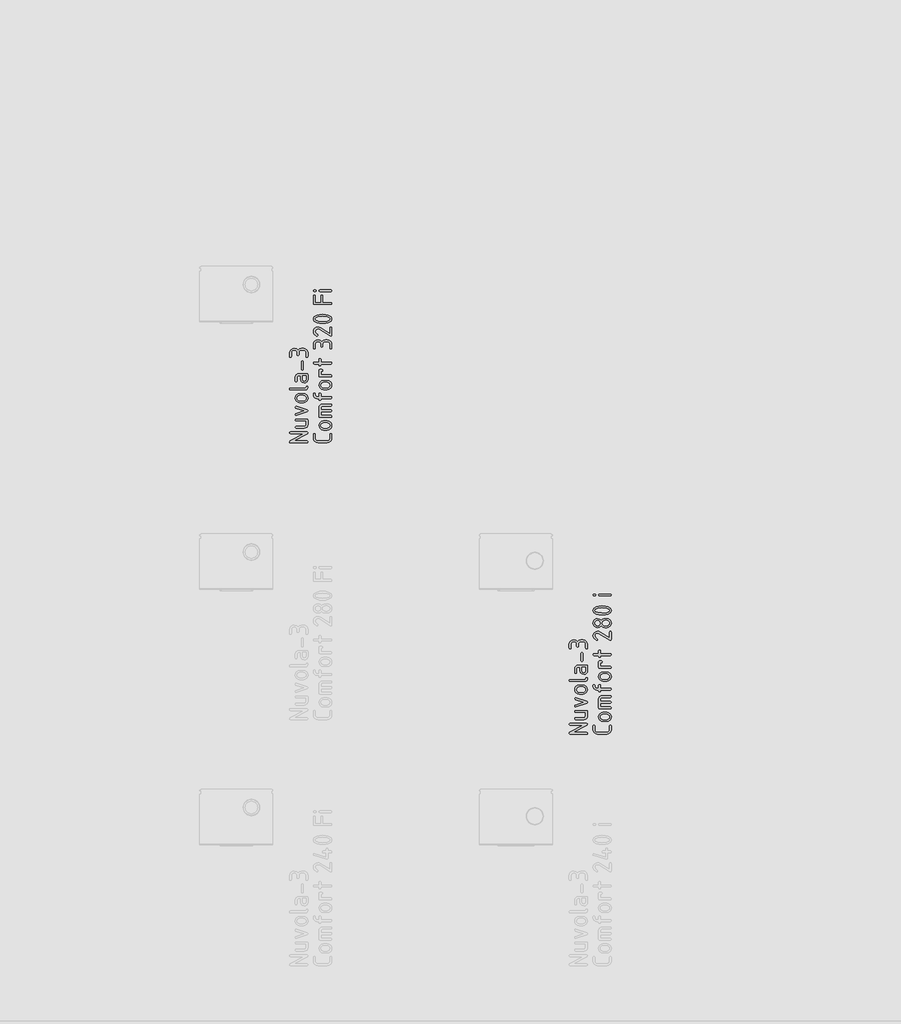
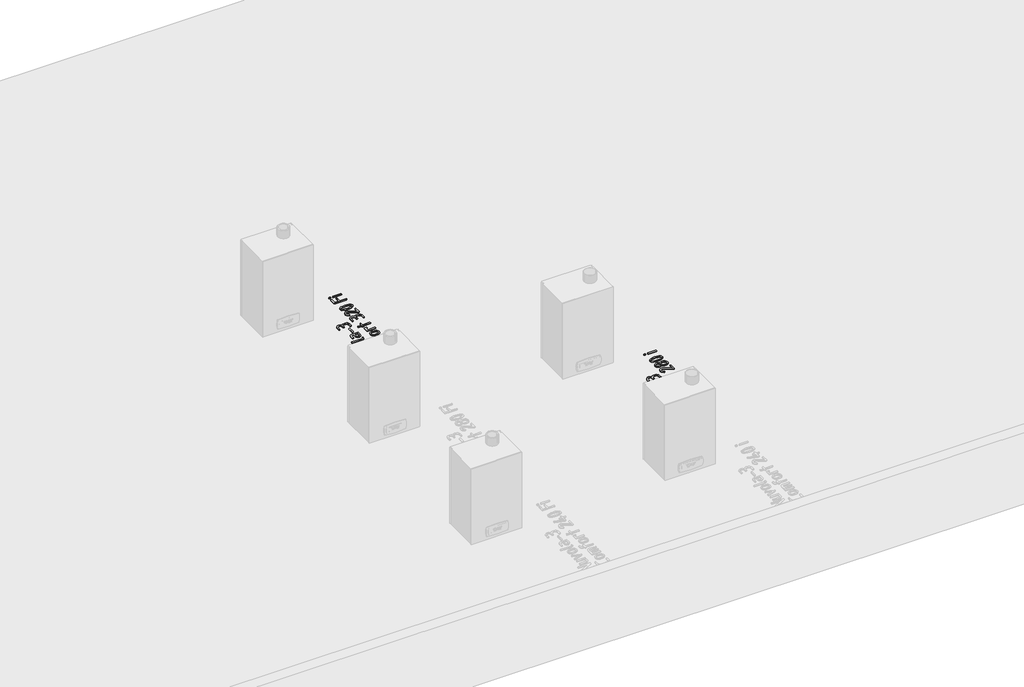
# One storey, part 11 of 37: 2 proxies.
"""IFC4 building model written with IfcOpenShell, lengths in millimetres."""

from ifc_helpers import new_model, si_unit, origin, origin_with_axes, place, context, project, spatial, polyline, outline, extrude, element, save

model = new_model("IFC4")

# Units and contexts
model_context = context("Model", 3, world=origin())
ifc_project = project(units=[si_unit("LENGTHUNIT", "METRE", prefix="MILLI")], contexts=[model_context])

# Site, building, storey
site = spatial("IfcSite", under=ifc_project)
building = spatial("IfcBuilding", under=site)
storey = spatial("IfcBuildingStorey", under=building, Name="01_Стартовый вид_Площадка", Elevation=0.0)

# Proxies
placement = place(None, origin())
element("IfcBuildingElementProxy", 1, Name="150 мм", ObjectType="150 мм", at=placement, inside=storey, context=model_context, shape_type="SweptSolid", body=[
    extrude(outline(polyline([(10793.5127035, -15161.7152815), (10686.8818775, -15161.7152815), (10681.2187379, -15159.7976046), (10679.3310247, -15154.0445739), (10681.2187379, -15148.2915432), (10686.8818775, -15146.3738663), (10822.6374214, -15146.3738663), (10828.300561, -15148.411398), (10830.1882742, -15154.5239932), (10826.4328236, -15161.7152815), (10715.8867406, -15220.5240398), (10822.6374214, -15220.5240398), (10828.300561, -15222.4417167), (10830.1882742, -15228.1947474), (10828.300561, -15233.9477781), (10822.6374214, -15235.865455), (10686.8818775, -15235.865455), (10681.2187379, -15233.8678749), (10679.3310247, -15227.8751346), (10683.8056042, -15220.5240398), (10793.5127035, -15161.7152815)])), origin_with_axes(), (0.0, 0.0, 1.0), 10.0),
    extrude(outline(polyline([(10732.8262199, -15041.5408625), (10822.7173246, -15041.5408625), (10828.3205368, -15043.398612), (10830.1882742, -15048.9718605), (10830.1882742, -15086.0469472), (10828.0208998, -15097.5430207), (10821.5187765, -15107.1014415), (10811.8604767, -15113.5436373), (10800.2245726, -15115.6910359), (10732.8262199, -15115.6910359), (10727.2230077, -15113.773359), (10725.3552703, -15108.0203283), (10727.2230077, -15102.2672976), (10732.8262199, -15100.3496207), (10799.9449114, -15100.3496207), (10810.4322069, -15096.0747993), (10814.846859, -15085.8471892), (10814.846859, -15056.8822777), (10732.8262199, -15056.8822777), (10727.2230077, -15054.9646008), (10725.3552703, -15049.2115701), (10727.2230077, -15043.4585394), (10732.8262199, -15041.5408625)])), origin_with_axes(), (0.0, 0.0, 1.0), 10.0),
    extrude(outline(polyline([(10798.8662181, -14973.7030422), (10730.4690754, -14950.9705806), (10725.3552703, -14943.8192438), (10727.2030319, -14938.0961768), (10732.7463167, -14936.1884878), (10735.223316, -14936.667907), (10823.9558242, -14966.192141), (10828.6301617, -14969.0886321), (10830.1882742, -14973.7030422), (10828.6601254, -14978.2974764), (10824.0756791, -14981.2139433), (10735.223316, -15010.7381773), (10732.7463167, -15011.2175965), (10727.5126568, -15009.0002826), (10725.3552703, -15003.7066953), (10726.6337216, -14999.1821764), (10730.4690754, -14996.5553585), (10798.8662181, -14973.7030422)])), origin_with_axes(), (0.0, 0.0, 1.0), 10.0),
    extrude(outline(polyline([(10792.753623, -14906.0250282), (10762.7899215, -14906.0250282), (10748.3973568, -14903.3133132), (10736.3020093, -14895.1781683), (10728.0919551, -14883.1976816), (10725.3552703, -14868.9499415), (10728.0619914, -14854.5523829), (10736.1821545, -14842.6018599), (10748.2475383, -14834.5566061), (10762.7899215, -14831.8748548), (10792.753623, -14831.8748548), (10807.1461877, -14834.5865698), (10819.2415352, -14842.7217147), (10827.4515894, -14854.7022014), (10830.1882742, -14868.9499415), (10827.4515894, -14883.1976816), (10819.2415352, -14895.1781683), (10807.1461877, -14903.3133132), (10792.753623, -14906.0250282)]), holes=[polyline([(10792.3141554, -14847.21627), (10762.3105022, -14847.21627), (10753.6809562, -14848.8093401), (10746.4097646, -14853.5885505), (10741.4657539, -14860.6150385), (10739.8177503, -14868.9499415), (10741.4657539, -14877.2848445), (10746.4097646, -14884.3113325), (10753.6809562, -14889.0905429), (10762.3105022, -14890.683613), (10792.3141554, -14890.683613), (10801.0236047, -14889.1055248), (10808.2947962, -14884.3712599), (10813.2088433, -14877.3597537), (10814.846859, -14868.9499415), (10813.1988554, -14860.6150385), (10808.2548446, -14853.5885505), (10800.9736651, -14848.8093401), (10792.3141554, -14847.21627)])]), origin_with_axes(), (0.0, 0.0, 1.0), 10.0),
    extrude(outline(polyline([(10686.8818775, -14801.1920244), (10681.2187379, -14799.2743475), (10679.3310247, -14793.5213168), (10681.2187379, -14787.7682861), (10686.8818775, -14785.8506092), (10807.5756674, -14785.8506092), (10812.3498838, -14783.9778778), (10815.0865686, -14778.3596838), (10817.8332412, -14772.7414898), (10822.6374214, -14770.8687584), (10828.300561, -14772.7364958), (10830.1882742, -14778.339708), (10828.6900891, -14787.5635341), (10824.1955339, -14794.8596955), (10817.0441971, -14799.6089422), (10807.5756674, -14801.1920244), (10686.8818775, -14801.1920244)])), origin_with_axes(), (0.0, 0.0, 1.0), 10.0),
    extrude(outline(polyline([(10830.1882742, -14713.578161), (10827.9659663, -14725.1940893), (10821.2990427, -14734.8723649), (10811.4060272, -14741.4044519), (10799.5054438, -14743.5818142), (10784.0441738, -14739.586654), (10772.6280035, -14728.8296851), (10768.8226134, -14713.578161), (10768.8226134, -14683.5745079), (10754.7596494, -14683.5745079), (10744.7517731, -14687.8892809), (10740.6966855, -14698.5563587), (10740.6966855, -14728.5600118), (10738.7790086, -14734.1931877), (10733.0259779, -14736.070913), (10727.2729472, -14734.1931877), (10725.3552703, -14728.5600118), (10725.3552703, -14698.5563587), (10727.5226447, -14686.875509), (10734.024768, -14677.0823725), (10743.6830678, -14670.4454126), (10755.3189719, -14668.2330927), (10822.7173246, -14668.2330927), (10828.3205368, -14670.1507696), (10830.1882742, -14675.9038003), (10830.1882742, -14713.578161)]), holes=[polyline([(10784.1640286, -14683.5745079), (10784.1640286, -14713.578161), (10788.638608, -14724.1853114), (10799.5054438, -14728.5600118), (10810.3123521, -14724.125384), (10814.846859, -14713.578161), (10814.846859, -14683.5745079), (10784.1640286, -14683.5745079)])]), origin_with_axes(), (0.0, 0.0, 1.0), 10.0),
    extrude(outline(polyline([(10791.8347362, -14570.3916192), (10791.8347362, -14630.3989255), (10789.9170593, -14636.0321014), (10784.1640286, -14637.9098267), (10778.4109979, -14636.0321014), (10776.493321, -14630.3989255), (10776.493321, -14570.3916192), (10778.4109979, -14564.7584433), (10784.1640286, -14562.880718), (10789.9170593, -14564.7584433), (10791.8347362, -14570.3916192)])), origin_with_axes(), (0.0, 0.0, 1.0), 10.0),
    extrude(outline(polyline([(10756.0381007, -14496.4012521), (10756.0381007, -14511.3831029), (10754.1204238, -14517.0162788), (10748.3673931, -14518.8940041), (10742.6143624, -14517.0162788), (10740.6966855, -14511.3831029), (10740.6966855, -14496.4012521), (10739.0237122, -14487.6967968), (10734.0047922, -14480.4405871), (10726.5787881, -14475.5415219), (10717.6845627, -14473.9085002), (10708.8402768, -14475.5565038), (10701.4042849, -14480.5005145), (10696.3554012, -14487.7717061), (10694.6724399, -14496.4012521), (10694.6724399, -14526.4049053), (10692.754763, -14532.0380812), (10687.0017323, -14533.9158065), (10681.2487016, -14532.0380812), (10679.3310247, -14526.4049053), (10679.3310247, -14496.4012521), (10682.1476127, -14481.9337782), (10690.5973765, -14469.6936062), (10703.002349, -14461.3487153), (10717.6845627, -14458.567085), (10734.8837274, -14462.3225356), (10748.3673931, -14473.5888874), (10761.4415549, -14462.3225356), (10778.1313367, -14458.567085), (10792.9933326, -14458.567085), (10807.3059941, -14461.3636971), (10819.3214384, -14469.7535336), (10827.4715652, -14482.0086875), (10830.1882742, -14496.4012521), (10830.1882742, -14526.4049053), (10828.2705973, -14532.0380812), (10822.5175666, -14533.9158065), (10816.7645359, -14532.0380812), (10814.846859, -14526.4049053), (10814.846859, -14496.4012521), (10813.2438009, -14487.6967968), (10808.4346268, -14480.4405871), (10801.3182477, -14475.5415219), (10792.7935746, -14473.9085002), (10778.0913851, -14473.9085002), (10769.6166515, -14475.5565038), (10762.4902844, -14480.5005145), (10757.6511466, -14487.7717061), (10756.0381007, -14496.4012521)])), origin_with_axes(), (0.0, 0.0, 1.0), 10.0),
    extrude(outline(polyline([(10875.3552703, -15168.0276347), (10877.2729472, -15162.3944588), (10883.0259779, -15160.5167335), (10888.7790086, -15162.3944588), (10890.6966855, -15168.0276347), (10890.6966855, -15198.0312878), (10892.3446891, -15206.7357431), (10897.2886999, -15213.9919528), (10904.5698793, -15218.8910181), (10913.2293891, -15220.5240398), (10988.338401, -15220.5240398), (10996.9979107, -15218.8760362), (11004.2790902, -15213.9320254), (11009.223101, -15206.6608339), (11010.8711046, -15198.0312878), (11010.8711046, -15168.0276347), (11012.7887815, -15162.3944588), (11018.5418122, -15160.5167335), (11024.2948429, -15162.3944588), (11026.2125198, -15168.0276347), (11026.2125198, -15198.0312878), (11023.4558592, -15212.4987617), (11015.1858776, -15224.7389338), (11003.000639, -15233.0838247), (10988.4982074, -15235.865455), (10913.0695827, -15235.865455), (10898.5671511, -15233.0838247), (10886.3819125, -15224.7389338), (10878.1119309, -15212.4987617), (10875.3552703, -15198.0312878), (10875.3552703, -15168.0276347)])), origin_with_axes(), (0.0, 0.0, 1.0), 10.0),
    extrude(outline(polyline([(10988.7778686, -15131.0324511), (10958.8141671, -15131.0324511), (10944.4216024, -15128.3207361), (10932.3262549, -15120.1855912), (10924.1162007, -15108.2051045), (10921.3795159, -15093.9573644), (10924.086237, -15079.5598058), (10932.2064001, -15067.6092828), (10944.2717839, -15059.564029), (10958.8141671, -15056.8822777), (10988.7778686, -15056.8822777), (11003.1704333, -15059.5939927), (11015.2657808, -15067.7291376), (11023.475835, -15079.7096243), (11026.2125198, -15093.9573644), (11023.475835, -15108.2051045), (11015.2657808, -15120.1855912), (11003.1704333, -15128.3207361), (10988.7778686, -15131.0324511)]), holes=[polyline([(10988.338401, -15072.2236929), (10958.3347478, -15072.2236929), (10949.7052018, -15073.816763), (10942.4340102, -15078.5959734), (10937.4899994, -15085.6224614), (10935.8419959, -15093.9573644), (10937.4899994, -15102.2922674), (10942.4340102, -15109.3187554), (10949.7052018, -15114.0979658), (10958.3347478, -15115.6910359), (10988.338401, -15115.6910359), (10997.0478502, -15114.1129477), (11004.3190418, -15109.3786828), (11009.2330889, -15102.3671766), (11010.8711046, -15093.9573644), (11009.223101, -15085.6224614), (11004.2790902, -15078.5959734), (10996.9979107, -15073.816763), (10988.338401, -15072.2236929)])]), origin_with_axes(), (0.0, 0.0, 1.0), 10.0),
    extrude(outline(polyline([(10921.3795159, -15018.5287397), (10921.3795159, -14949.4923713), (10923.5468903, -14937.5917878), (10930.0490136, -14927.6987724), (10939.7073134, -14921.0318488), (10951.3432175, -14918.8095409), (11018.7415702, -14918.8095409), (11024.3447824, -14920.7272178), (11026.2125198, -14926.4802485), (11024.3447824, -14932.2332792), (11018.7415702, -14934.1509561), (10951.6228787, -14934.1509561), (10941.0157283, -14938.5656081), (10936.7209311, -14949.4923713), (10936.7209311, -14964.8337865), (11018.7415702, -14964.8337865), (11024.3447824, -14966.7514634), (11026.2125198, -14972.5044941), (11024.3447824, -14978.2575248), (11018.7415702, -14980.1752017), (10936.7209311, -14980.1752017), (10936.7209311, -15010.8580321), (11018.7415702, -15010.8580321), (11024.3447824, -15012.775709), (11026.2125198, -15018.5287397), (11024.3447824, -15024.2817704), (11018.7415702, -15026.1994473), (10928.8504655, -15026.1994473), (10923.2472533, -15024.2817704), (10921.3795159, -15018.5287397)])), origin_with_axes(), (0.0, 0.0, 1.0), 10.0),
    extrude(outline(polyline([(10921.3795159, -14880.2961965), (10921.3795159, -14872.7852953), (10906.0381007, -14872.7852953), (10894.1375172, -14870.5529995), (10884.2445018, -14863.8561122), (10877.5775782, -14854.0330121), (10875.3552703, -14842.4220777), (10875.3552703, -14834.9111765), (10877.2729472, -14829.3079644), (10883.0259779, -14827.440227), (10888.7790086, -14829.3079644), (10890.6966855, -14834.9111765), (10890.6966855, -14842.4220777), (10895.1712649, -14853.0691797), (10906.0381007, -14857.4438801), (10921.3795159, -14857.4438801), (10921.3795159, -14834.9111765), (10923.2971928, -14829.3079644), (10929.0502235, -14827.440227), (10934.8032542, -14829.3079644), (10936.7209311, -14834.9111765), (10936.7209311, -14857.4438801), (11018.7415702, -14857.4438801), (11024.3447824, -14859.361557), (11026.2125198, -14865.1145877), (11024.3447824, -14870.8676184), (11018.7415702, -14872.7852953), (10936.7209311, -14872.7852953), (10936.7209311, -14880.2961965), (10934.8032542, -14885.9293724), (10929.0502235, -14887.8070977), (10923.2971928, -14885.9293724), (10921.3795159, -14880.2961965)])), origin_with_axes(), (0.0, 0.0, 1.0), 10.0),
    extrude(outline(polyline([(10988.7778686, -14798.6351219), (10958.8141671, -14798.6351219), (10944.4216024, -14795.9234069), (10932.3262549, -14787.7882619), (10924.1162007, -14775.8077752), (10921.3795159, -14761.5600351), (10924.086237, -14747.1624765), (10932.2064001, -14735.2119536), (10944.2717839, -14727.1666997), (10958.8141671, -14724.4849484), (10988.7778686, -14724.4849484), (11003.1704333, -14727.1966634), (11015.2657808, -14735.3318084), (11023.475835, -14747.312295), (11026.2125198, -14761.5600351), (11023.475835, -14775.8077752), (11015.2657808, -14787.7882619), (11003.1704333, -14795.9234069), (10988.7778686, -14798.6351219)]), holes=[polyline([(10988.338401, -14739.8263636), (10958.3347478, -14739.8263636), (10949.7052018, -14741.4194337), (10942.4340102, -14746.1986441), (10937.4899994, -14753.2251321), (10935.8419959, -14761.5600351), (10937.4899994, -14769.8949381), (10942.4340102, -14776.9214261), (10949.7052018, -14781.7006365), (10958.3347478, -14783.2937067), (10988.338401, -14783.2937067), (10997.0478502, -14781.7156184), (11004.3190418, -14776.9813535), (11009.2330889, -14769.9698474), (11010.8711046, -14761.5600351), (11009.223101, -14753.2251321), (11004.2790902, -14746.1986441), (10996.9979107, -14741.4194337), (10988.338401, -14739.8263636)])]), origin_with_axes(), (0.0, 0.0, 1.0), 10.0),
    extrude(outline(polyline([(10928.8504655, -14693.802118), (10923.2472533, -14691.8844411), (10921.3795159, -14686.1314104), (10921.3795159, -14640.9461485), (10923.2971928, -14635.3429363), (10929.0502235, -14633.4751989), (10944.2318323, -14633.4751989), (10949.8650082, -14635.3429363), (10951.7427335, -14640.9461485), (10949.8650082, -14646.5793244), (10944.2318323, -14648.4570496), (10936.7209311, -14648.4570496), (10936.7209311, -14678.4607028), (11018.7415702, -14678.4607028), (11024.3447824, -14680.3783797), (11026.2125198, -14686.1314104), (11024.3447824, -14691.8844411), (11018.7415702, -14693.802118), (10928.8504655, -14693.802118)])), origin_with_axes(), (0.0, 0.0, 1.0), 10.0),
    extrude(outline(polyline([(10936.7209311, -14588.9691142), (10936.7209311, -14596.4800153), (10934.8032542, -14602.1131912), (10929.0502235, -14603.9909165), (10923.2971928, -14602.1131912), (10921.3795159, -14596.4800153), (10921.3795159, -14588.9691142), (10883.0259779, -14588.9691142), (10877.2729472, -14587.0514373), (10875.3552703, -14581.2984066), (10877.2729472, -14575.5453759), (10883.0259779, -14573.627699), (10921.3795159, -14573.627699), (10921.3795159, -14551.0949954), (10923.2971928, -14545.4917832), (10929.0502235, -14543.6240458), (10934.8032542, -14545.4917832), (10936.7209311, -14551.0949954), (10936.7209311, -14573.627699), (11018.7415702, -14573.627699), (11024.3447824, -14575.5453759), (11026.2125198, -14581.2984066), (11024.3447824, -14587.0514373), (11018.7415702, -14588.9691142), (10936.7209311, -14588.9691142)])), origin_with_axes(), (0.0, 0.0, 1.0), 10.0),
    extrude(outline(polyline([(10875.3552703, -14426.5259001), (10878.1069369, -14412.0983778), (10886.3619367, -14399.9780605), (10898.5222056, -14391.7530245), (10912.9896795, -14389.0113458), (10923.7865999, -14390.7192768), (10934.6833994, -14395.8430697), (11010.8711046, -14443.105815), (11010.8711046, -14396.522247), (11012.7887815, -14390.8890711), (11018.5418122, -14389.0113458), (11024.2948429, -14390.8890711), (11026.2125198, -14396.522247), (11026.2125198, -14456.5295533), (11024.3347945, -14462.1627292), (11018.7016186, -14464.0404545), (11014.3468939, -14462.7620032), (10925.7342405, -14407.7885987), (10913.2693407, -14404.0331481), (10904.604837, -14405.6811517), (10897.3086757, -14410.6251625), (10892.3496831, -14417.8963541), (10890.6966855, -14426.5259001), (10895.4109746, -14438.7610782), (10909.5538417, -14450.0573937), (10913.1894375, -14456.5295533), (10911.3117122, -14462.1627292), (10905.6785363, -14464.0404545), (10902.6022629, -14463.3213256), (10882.1670185, -14447.1509147), (10877.0582074, -14437.3952329), (10875.3552703, -14426.5259001)])), origin_with_axes(), (0.0, 0.0, 1.0), 10.0),
    extrude(outline(polyline([(11026.2125198, -14321.7727995), (11023.4558592, -14336.0205396), (11015.1858776, -14348.0010262), (11003.000639, -14356.1361712), (10988.4982074, -14358.8478862), (10973.3965018, -14358.8478862), (10956.4869862, -14355.0125324), (10943.2330422, -14343.506471), (10929.9790983, -14355.0125324), (10913.0695827, -14358.8478862), (10898.5671511, -14356.1361712), (10886.3819125, -14348.0010262), (10878.1119309, -14336.0205396), (10875.3552703, -14321.7727995), (10878.1119309, -14307.5250594), (10886.3819125, -14295.5445727), (10898.5671511, -14287.4094277), (10913.0695827, -14284.6977127), (10929.9790983, -14288.5330665), (10943.2330422, -14300.0391279), (10952.4119228, -14291.7891221), (10963.4885045, -14287.2546153), (10988.4982074, -14284.6977127), (11003.000639, -14287.4094277), (11015.1858776, -14295.5445727), (11023.4558592, -14307.5250594), (11026.2125198, -14321.7727995)]), holes=[polyline([(11010.8711046, -14321.7727995), (11009.2330889, -14313.3629872), (11004.3190418, -14306.3514811), (10997.0478502, -14301.6172162), (10988.338401, -14300.0391279), (10973.3565502, -14300.0391279), (10964.7270042, -14301.6321981), (10957.4558126, -14306.4114085), (10952.5118018, -14313.4378965), (10950.8637982, -14321.7727995), (10952.49682, -14330.1826117), (10957.3958852, -14337.1941179), (10964.6520949, -14341.9283827), (10973.3565502, -14343.506471), (10988.338401, -14343.506471), (10997.0478502, -14341.9283827), (11004.3190418, -14337.1941179), (11009.2330889, -14330.1826117), (11010.8711046, -14321.7727995)]), polyline([(10936.2015603, -14321.7727995), (10934.5685385, -14313.3629872), (10929.6694733, -14306.3514811), (10922.4132636, -14301.6172162), (10913.7088083, -14300.0391279), (10905.0792623, -14301.6321981), (10897.8080707, -14306.4114085), (10892.8640599, -14313.4378965), (10891.2160563, -14321.7727995), (10892.8490781, -14330.1826117), (10897.7481433, -14337.1941179), (10905.004353, -14341.9283827), (10913.7088083, -14343.506471), (10922.4132636, -14341.9283827), (10929.6694733, -14337.1941179), (10934.5685385, -14330.1826117), (10936.2015603, -14321.7727995)])]), origin_with_axes(), (0.0, 0.0, 1.0), 10.0),
    extrude(outline(polyline([(10950.783895, -14179.8647089), (10975.9234406, -14181.4927367), (10997.4074147, -14186.37682), (11019.0112435, -14198.7917804), (11024.4122007, -14207.1491561), (11026.2125198, -14216.9397956), (11024.4196916, -14226.7304351), (11019.0412072, -14235.0878109), (10997.5272695, -14247.5027712), (10976.0133318, -14252.3868546), (10950.783895, -14254.0148823), (10925.5544583, -14252.3868546), (10904.0405206, -14247.5027712), (10882.5265829, -14235.0878109), (10877.1480985, -14226.7304351), (10875.3552703, -14216.9397956), (10877.1555894, -14207.1491561), (10882.5565466, -14198.7917804), (10904.1603754, -14186.37682), (10925.6443494, -14181.4927367), (10950.783895, -14179.8647089)]), holes=[polyline([(10950.783895, -14195.2061241), (10915.6264852, -14199.0414779), (10896.9291354, -14206.4325243), (10890.6966855, -14216.9397956), (10896.9590991, -14227.3571759), (10915.74634, -14234.7182585), (10950.783895, -14238.6734671), (10985.9413049, -14234.8381133), (11004.6386546, -14227.447067), (11010.8711046, -14216.9397956), (11004.6386546, -14206.4325243), (10985.9413049, -14199.0414779), (10950.783895, -14195.2061241)])]), origin_with_axes(), (0.0, 0.0, 1.0), 10.0),
    extrude(outline(polyline([(10890.3770727, -14098.0438278), (10882.8661715, -14098.0438278), (10877.2329956, -14096.1261509), (10875.3552703, -14090.3731202), (10877.2329956, -14084.6200895), (10882.8661715, -14082.7024126), (10890.3770727, -14082.7024126), (10896.0102486, -14084.6200895), (10897.8879739, -14090.3731202), (10896.0102486, -14096.1261509), (10890.3770727, -14098.0438278)])), origin_with_axes(), (0.0, 0.0, 1.0), 10.0),
    extrude(outline(polyline([(10928.6906591, -14098.0438278), (10923.0874469, -14096.1261509), (10921.2197095, -14090.3731202), (10923.0874469, -14084.6200895), (10928.6906591, -14082.7024126), (11018.7016186, -14082.7024126), (11024.3347945, -14084.6200895), (11026.2125198, -14090.3731202), (11024.3347945, -14096.1261509), (11018.7016186, -14098.0438278), (10928.6906591, -14098.0438278)])), origin_with_axes(), (0.0, 0.0, 1.0), 10.0),
])
element("IfcBuildingElementProxy", 2, Name="150 мм", ObjectType="150 мм", at=placement, inside=storey, context=model_context, shape_type="SweptSolid", body=[
    extrude(outline(polyline([(8493.5127035, -12764.7369373), (8386.8818775, -12764.7369373), (8381.2187379, -12762.8192604), (8379.3310247, -12757.0662297), (8381.2187379, -12751.313199), (8386.8818775, -12749.3955221), (8522.6374214, -12749.3955221), (8528.300561, -12751.4330538), (8530.1882742, -12757.5456489), (8526.4328236, -12764.7369373), (8415.8867406, -12823.5456956), (8522.6374214, -12823.5456956), (8528.300561, -12825.4633725), (8530.1882742, -12831.2164032), (8528.300561, -12836.9694339), (8522.6374214, -12838.8871108), (8386.8818775, -12838.8871108), (8381.2187379, -12836.8895307), (8379.3310247, -12830.8967904), (8383.8056042, -12823.5456956), (8493.5127035, -12764.7369373)])), origin_with_axes(), (0.0, 0.0, 1.0), 10.0),
    extrude(outline(polyline([(8432.8262199, -12644.5625183), (8522.7173246, -12644.5625183), (8528.3205368, -12646.4202678), (8530.1882742, -12651.9935163), (8530.1882742, -12689.068603), (8528.0208998, -12700.5646765), (8521.5187765, -12710.1230973), (8511.8604767, -12716.5652931), (8500.2245726, -12718.7126917), (8432.8262199, -12718.7126917), (8427.2230077, -12716.7950148), (8425.3552703, -12711.0419841), (8427.2230077, -12705.2889534), (8432.8262199, -12703.3712765), (8499.9449114, -12703.3712765), (8510.4322069, -12699.0964551), (8514.846859, -12688.868845), (8514.846859, -12659.9039335), (8432.8262199, -12659.9039335), (8427.2230077, -12657.9862566), (8425.3552703, -12652.2332259), (8427.2230077, -12646.4801952), (8432.8262199, -12644.5625183)])), origin_with_axes(), (0.0, 0.0, 1.0), 10.0),
    extrude(outline(polyline([(8498.8662181, -12576.7246979), (8430.4690754, -12553.9922364), (8425.3552703, -12546.8408996), (8427.2030319, -12541.1178326), (8432.7463167, -12539.2101436), (8435.223316, -12539.6895628), (8523.9558242, -12569.2137968), (8528.6301617, -12572.1102879), (8530.1882742, -12576.7246979), (8528.6601254, -12581.3191322), (8524.0756791, -12584.2355991), (8435.223316, -12613.7598331), (8432.7463167, -12614.2392523), (8427.5126568, -12612.0219384), (8425.3552703, -12606.7283511), (8426.6337216, -12602.2038322), (8430.4690754, -12599.5770143), (8498.8662181, -12576.7246979)])), origin_with_axes(), (0.0, 0.0, 1.0), 10.0),
    extrude(outline(polyline([(8492.753623, -12509.046684), (8462.7899215, -12509.046684), (8448.3973568, -12506.334969), (8436.3020093, -12498.1998241), (8428.0919551, -12486.2193374), (8425.3552703, -12471.9715973), (8428.0619914, -12457.5740387), (8436.1821545, -12445.6235157), (8448.2475383, -12437.5782619), (8462.7899215, -12434.8965106), (8492.753623, -12434.8965106), (8507.1461877, -12437.6082256), (8519.2415352, -12445.7433705), (8527.4515894, -12457.7238572), (8530.1882742, -12471.9715973), (8527.4515894, -12486.2193374), (8519.2415352, -12498.1998241), (8507.1461877, -12506.334969), (8492.753623, -12509.046684)]), holes=[polyline([(8492.3141554, -12450.2379258), (8462.3105022, -12450.2379258), (8453.6809562, -12451.8309959), (8446.4097646, -12456.6102063), (8441.4657539, -12463.6366943), (8439.8177503, -12471.9715973), (8441.4657539, -12480.3065003), (8446.4097646, -12487.3329883), (8453.6809562, -12492.1121987), (8462.3105022, -12493.7052688), (8492.3141554, -12493.7052688), (8501.0236047, -12492.1271806), (8508.2947962, -12487.3929157), (8513.2088433, -12480.3814095), (8514.846859, -12471.9715973), (8513.1988554, -12463.6366943), (8508.2548446, -12456.6102063), (8500.9736651, -12451.8309959), (8492.3141554, -12450.2379258)])]), origin_with_axes(), (0.0, 0.0, 1.0), 10.0),
    extrude(outline(polyline([(8386.8818775, -12404.2136802), (8381.2187379, -12402.2960033), (8379.3310247, -12396.5429726), (8381.2187379, -12390.7899419), (8386.8818775, -12388.872265), (8507.5756674, -12388.872265), (8512.3498838, -12386.9995336), (8515.0865686, -12381.3813396), (8517.8332412, -12375.7631456), (8522.6374214, -12373.8904142), (8528.300561, -12375.7581516), (8530.1882742, -12381.3613638), (8528.6900891, -12390.5851899), (8524.1955339, -12397.8813513), (8517.0441971, -12402.6305979), (8507.5756674, -12404.2136802), (8386.8818775, -12404.2136802)])), origin_with_axes(), (0.0, 0.0, 1.0), 10.0),
    extrude(outline(polyline([(8530.1882742, -12316.5998168), (8527.9659663, -12328.2157451), (8521.2990427, -12337.8940207), (8511.4060272, -12344.4261077), (8499.5054438, -12346.60347), (8484.0441738, -12342.6083098), (8472.6280035, -12331.8513409), (8468.8226134, -12316.5998168), (8468.8226134, -12286.5961637), (8454.7596494, -12286.5961637), (8444.7517731, -12290.9109367), (8440.6966855, -12301.5780144), (8440.6966855, -12331.5816676), (8438.7790086, -12337.2148435), (8433.0259779, -12339.0925688), (8427.2729472, -12337.2148435), (8425.3552703, -12331.5816676), (8425.3552703, -12301.5780144), (8427.5226447, -12289.8971648), (8434.024768, -12280.1040283), (8443.6830678, -12273.4670684), (8455.3189719, -12271.2547485), (8522.7173246, -12271.2547485), (8528.3205368, -12273.1724254), (8530.1882742, -12278.9254561), (8530.1882742, -12316.5998168)]), holes=[polyline([(8484.1640286, -12286.5961637), (8484.1640286, -12316.5998168), (8488.638608, -12327.2069672), (8499.5054438, -12331.5816676), (8510.3123521, -12327.1470398), (8514.846859, -12316.5998168), (8514.846859, -12286.5961637), (8484.1640286, -12286.5961637)])]), origin_with_axes(), (0.0, 0.0, 1.0), 10.0),
    extrude(outline(polyline([(8491.8347362, -12173.413275), (8491.8347362, -12233.4205813), (8489.9170593, -12239.0537572), (8484.1640286, -12240.9314825), (8478.4109979, -12239.0537572), (8476.493321, -12233.4205813), (8476.493321, -12173.413275), (8478.4109979, -12167.7800991), (8484.1640286, -12165.9023738), (8489.9170593, -12167.7800991), (8491.8347362, -12173.413275)])), origin_with_axes(), (0.0, 0.0, 1.0), 10.0),
    extrude(outline(polyline([(8456.0381007, -12099.4229079), (8456.0381007, -12114.4047587), (8454.1204238, -12120.0379346), (8448.3673931, -12121.9156599), (8442.6143624, -12120.0379346), (8440.6966855, -12114.4047587), (8440.6966855, -12099.4229079), (8439.0237122, -12090.7184526), (8434.0047922, -12083.4622429), (8426.5787881, -12078.5631777), (8417.6845627, -12076.930156), (8408.8402768, -12078.5781596), (8401.4042849, -12083.5221703), (8396.3554012, -12090.7933619), (8394.6724399, -12099.4229079), (8394.6724399, -12129.4265611), (8392.754763, -12135.059737), (8387.0017323, -12136.9374623), (8381.2487016, -12135.059737), (8379.3310247, -12129.4265611), (8379.3310247, -12099.4229079), (8382.1476127, -12084.955434), (8390.5973765, -12072.7152619), (8403.002349, -12064.3703711), (8417.6845627, -12061.5887408), (8434.8837274, -12065.3441914), (8448.3673931, -12076.6105432), (8461.4415549, -12065.3441914), (8478.1313367, -12061.5887408), (8492.9933326, -12061.5887408), (8507.3059941, -12064.3853529), (8519.3214384, -12072.7751894), (8527.4715652, -12085.0303433), (8530.1882742, -12099.4229079), (8530.1882742, -12129.4265611), (8528.2705973, -12135.059737), (8522.5175666, -12136.9374623), (8516.7645359, -12135.059737), (8514.846859, -12129.4265611), (8514.846859, -12099.4229079), (8513.2438009, -12090.7184526), (8508.4346268, -12083.4622429), (8501.3182477, -12078.5631777), (8492.7935746, -12076.930156), (8478.0913851, -12076.930156), (8469.6166515, -12078.5781596), (8462.4902844, -12083.5221703), (8457.6511466, -12090.7933619), (8456.0381007, -12099.4229079)])), origin_with_axes(), (0.0, 0.0, 1.0), 10.0),
    extrude(outline(polyline([(8575.3552703, -12771.0492905), (8577.2729472, -12765.4161146), (8583.0259779, -12763.5383893), (8588.7790086, -12765.4161146), (8590.6966855, -12771.0492905), (8590.6966855, -12801.0529436), (8592.3446891, -12809.7573989), (8597.2886999, -12817.0136086), (8604.5698793, -12821.9126738), (8613.2293891, -12823.5456956), (8688.338401, -12823.5456956), (8696.9979107, -12821.897692), (8704.2790902, -12816.9536812), (8709.223101, -12809.6824897), (8710.8711046, -12801.0529436), (8710.8711046, -12771.0492905), (8712.7887815, -12765.4161146), (8718.5418122, -12763.5383893), (8724.2948429, -12765.4161146), (8726.2125198, -12771.0492905), (8726.2125198, -12801.0529436), (8723.4558592, -12815.5204175), (8715.1858776, -12827.7605896), (8703.000639, -12836.1054805), (8688.4982074, -12838.8871108), (8613.0695827, -12838.8871108), (8598.5671511, -12836.1054805), (8586.3819125, -12827.7605896), (8578.1119309, -12815.5204175), (8575.3552703, -12801.0529436), (8575.3552703, -12771.0492905)])), origin_with_axes(), (0.0, 0.0, 1.0), 10.0),
    extrude(outline(polyline([(8688.7778686, -12734.0541069), (8658.8141671, -12734.0541069), (8644.4216024, -12731.3423919), (8632.3262549, -12723.207247), (8624.1162007, -12711.2267603), (8621.3795159, -12696.9790202), (8624.086237, -12682.5814616), (8632.2064001, -12670.6309386), (8644.2717839, -12662.5856848), (8658.8141671, -12659.9039335), (8688.7778686, -12659.9039335), (8703.1704333, -12662.6156485), (8715.2657808, -12670.7507934), (8723.475835, -12682.7312801), (8726.2125198, -12696.9790202), (8723.475835, -12711.2267603), (8715.2657808, -12723.207247), (8703.1704333, -12731.3423919), (8688.7778686, -12734.0541069)]), holes=[polyline([(8688.338401, -12675.2453487), (8658.3347478, -12675.2453487), (8649.7052018, -12676.8384188), (8642.4340102, -12681.6176292), (8637.4899994, -12688.6441172), (8635.8419959, -12696.9790202), (8637.4899994, -12705.3139232), (8642.4340102, -12712.3404112), (8649.7052018, -12717.1196216), (8658.3347478, -12718.7126917), (8688.338401, -12718.7126917), (8697.0478502, -12717.1346034), (8704.3190418, -12712.4003386), (8709.2330889, -12705.3888324), (8710.8711046, -12696.9790202), (8709.223101, -12688.6441172), (8704.2790902, -12681.6176292), (8696.9979107, -12676.8384188), (8688.338401, -12675.2453487)])]), origin_with_axes(), (0.0, 0.0, 1.0), 10.0),
    extrude(outline(polyline([(8621.3795159, -12621.5503955), (8621.3795159, -12552.5140271), (8623.5468903, -12540.6134436), (8630.0490136, -12530.7204282), (8639.7073134, -12524.0535046), (8651.3432175, -12521.8311967), (8718.7415702, -12521.8311967), (8724.3447824, -12523.7488736), (8726.2125198, -12529.5019043), (8724.3447824, -12535.254935), (8718.7415702, -12537.1726119), (8651.6228787, -12537.1726119), (8641.0157283, -12541.5872639), (8636.7209311, -12552.5140271), (8636.7209311, -12567.8554423), (8718.7415702, -12567.8554423), (8724.3447824, -12569.7731192), (8726.2125198, -12575.5261499), (8724.3447824, -12581.2791806), (8718.7415702, -12583.1968575), (8636.7209311, -12583.1968575), (8636.7209311, -12613.8796879), (8718.7415702, -12613.8796879), (8724.3447824, -12615.7973648), (8726.2125198, -12621.5503955), (8724.3447824, -12627.3034262), (8718.7415702, -12629.2211031), (8628.8504655, -12629.2211031), (8623.2472533, -12627.3034262), (8621.3795159, -12621.5503955)])), origin_with_axes(), (0.0, 0.0, 1.0), 10.0),
    extrude(outline(polyline([(8621.3795159, -12483.3178523), (8621.3795159, -12475.8069511), (8606.0381007, -12475.8069511), (8594.1375172, -12473.5746553), (8584.2445018, -12466.877768), (8577.5775782, -12457.0546679), (8575.3552703, -12445.4437335), (8575.3552703, -12437.9328323), (8577.2729472, -12432.3296201), (8583.0259779, -12430.4618827), (8588.7790086, -12432.3296201), (8590.6966855, -12437.9328323), (8590.6966855, -12445.4437335), (8595.1712649, -12456.0908355), (8606.0381007, -12460.4655359), (8621.3795159, -12460.4655359), (8621.3795159, -12437.9328323), (8623.2971928, -12432.3296201), (8629.0502235, -12430.4618827), (8634.8032542, -12432.3296201), (8636.7209311, -12437.9328323), (8636.7209311, -12460.4655359), (8718.7415702, -12460.4655359), (8724.3447824, -12462.3832128), (8726.2125198, -12468.1362435), (8724.3447824, -12473.8892742), (8718.7415702, -12475.8069511), (8636.7209311, -12475.8069511), (8636.7209311, -12483.3178523), (8634.8032542, -12488.9510282), (8629.0502235, -12490.8287535), (8623.2971928, -12488.9510282), (8621.3795159, -12483.3178523)])), origin_with_axes(), (0.0, 0.0, 1.0), 10.0),
    extrude(outline(polyline([(8688.7778686, -12401.6567776), (8658.8141671, -12401.6567776), (8644.4216024, -12398.9450627), (8632.3262549, -12390.8099177), (8624.1162007, -12378.829431), (8621.3795159, -12364.5816909), (8624.086237, -12350.1841323), (8632.2064001, -12338.2336094), (8644.2717839, -12330.1883555), (8658.8141671, -12327.5066042), (8688.7778686, -12327.5066042), (8703.1704333, -12330.2183192), (8715.2657808, -12338.3534642), (8723.475835, -12350.3339508), (8726.2125198, -12364.5816909), (8723.475835, -12378.829431), (8715.2657808, -12390.8099177), (8703.1704333, -12398.9450627), (8688.7778686, -12401.6567776)]), holes=[polyline([(8688.338401, -12342.8480194), (8658.3347478, -12342.8480194), (8649.7052018, -12344.4410895), (8642.4340102, -12349.2202999), (8637.4899994, -12356.2467879), (8635.8419959, -12364.5816909), (8637.4899994, -12372.9165939), (8642.4340102, -12379.9430819), (8649.7052018, -12384.7222923), (8658.3347478, -12386.3153625), (8688.338401, -12386.3153625), (8697.0478502, -12384.7372742), (8704.3190418, -12380.0030093), (8709.2330889, -12372.9915032), (8710.8711046, -12364.5816909), (8709.223101, -12356.2467879), (8704.2790902, -12349.2202999), (8696.9979107, -12344.4410895), (8688.338401, -12342.8480194)])]), origin_with_axes(), (0.0, 0.0, 1.0), 10.0),
    extrude(outline(polyline([(8628.8504655, -12296.8237738), (8623.2472533, -12294.9060969), (8621.3795159, -12289.1530662), (8621.3795159, -12243.9678043), (8623.2971928, -12238.3645921), (8629.0502235, -12236.4968547), (8644.2318323, -12236.4968547), (8649.8650082, -12238.3645921), (8651.7427335, -12243.9678043), (8649.8650082, -12249.6009801), (8644.2318323, -12251.4787054), (8636.7209311, -12251.4787054), (8636.7209311, -12281.4823586), (8718.7415702, -12281.4823586), (8724.3447824, -12283.4000355), (8726.2125198, -12289.1530662), (8724.3447824, -12294.9060969), (8718.7415702, -12296.8237738), (8628.8504655, -12296.8237738)])), origin_with_axes(), (0.0, 0.0, 1.0), 10.0),
    extrude(outline(polyline([(8636.7209311, -12191.9907699), (8636.7209311, -12199.5016711), (8634.8032542, -12205.134847), (8629.0502235, -12207.0125723), (8623.2971928, -12205.134847), (8621.3795159, -12199.5016711), (8621.3795159, -12191.9907699), (8583.0259779, -12191.9907699), (8577.2729472, -12190.073093), (8575.3552703, -12184.3200624), (8577.2729472, -12178.5670317), (8583.0259779, -12176.6493548), (8621.3795159, -12176.6493548), (8621.3795159, -12154.1166512), (8623.2971928, -12148.513439), (8629.0502235, -12146.6457016), (8634.8032542, -12148.513439), (8636.7209311, -12154.1166512), (8636.7209311, -12176.6493548), (8718.7415702, -12176.6493548), (8724.3447824, -12178.5670317), (8726.2125198, -12184.3200624), (8724.3447824, -12190.073093), (8718.7415702, -12191.9907699), (8636.7209311, -12191.9907699)])), origin_with_axes(), (0.0, 0.0, 1.0), 10.0),
    extrude(outline(polyline([(8652.0623463, -12030.3865395), (8652.0623463, -12045.3683903), (8650.1446694, -12051.0015662), (8644.3916387, -12052.8792915), (8638.638608, -12051.0015662), (8636.7209311, -12045.3683903), (8636.7209311, -12030.3865395), (8635.0479578, -12021.6820842), (8630.0290378, -12014.4258745), (8622.6030337, -12009.5268093), (8613.7088083, -12007.8937876), (8604.8645224, -12009.5417912), (8597.4285305, -12014.4858019), (8592.3796468, -12021.7569935), (8590.6966855, -12030.3865395), (8590.6966855, -12060.3901927), (8588.7790086, -12066.0233686), (8583.0259779, -12067.9010939), (8577.2729472, -12066.0233686), (8575.3552703, -12060.3901927), (8575.3552703, -12030.3865395), (8578.1718583, -12015.9190656), (8586.6216221, -12003.6788936), (8599.0265945, -11995.3340027), (8613.7088083, -11992.5523724), (8630.907973, -11996.307823), (8644.3916387, -12007.5741748), (8657.4658005, -11996.307823), (8674.1555823, -11992.5523724), (8689.0175782, -11992.5523724), (8703.3302397, -11995.3489845), (8715.345684, -12003.738821), (8723.4958108, -12015.9939749), (8726.2125198, -12030.3865395), (8726.2125198, -12060.3901927), (8724.2948429, -12066.0233686), (8718.5418122, -12067.9010939), (8712.7887815, -12066.0233686), (8710.8711046, -12060.3901927), (8710.8711046, -12030.3865395), (8709.2680465, -12021.6820842), (8704.4588724, -12014.4258745), (8697.3424933, -12009.5268093), (8688.8178202, -12007.8937876), (8674.1156307, -12007.8937876), (8665.6408971, -12009.5417912), (8658.51453, -12014.4858019), (8653.6753922, -12021.7569935), (8652.0623463, -12030.3865395)])), origin_with_axes(), (0.0, 0.0, 1.0), 10.0),
    extrude(outline(polyline([(8575.3552703, -11924.7145521), (8578.1069369, -11910.2870298), (8586.3619367, -11898.1667125), (8598.5222056, -11889.9416764), (8612.9896795, -11887.1999977), (8623.7865999, -11888.9079287), (8634.6833994, -11894.0317217), (8710.8711046, -11941.2944669), (8710.8711046, -11894.7108989), (8712.7887815, -11889.077723), (8718.5418122, -11887.1999977), (8724.2948429, -11889.077723), (8726.2125198, -11894.7108989), (8726.2125198, -11954.7182052), (8724.3347945, -11960.3513811), (8718.7016186, -11962.2291064), (8714.3468939, -11960.9506551), (8625.7342405, -11905.9772507), (8613.2693407, -11902.2218001), (8604.604837, -11903.8698037), (8597.3086757, -11908.8138144), (8592.3496831, -11916.085006), (8590.6966855, -11924.7145521), (8595.4109746, -11936.9497302), (8609.5538417, -11948.2460457), (8613.1894375, -11954.7182052), (8611.3117122, -11960.3513811), (8605.6785363, -11962.2291064), (8602.6022629, -11961.5099776), (8582.1670185, -11945.3395666), (8577.0582074, -11935.5838848), (8575.3552703, -11924.7145521)])), origin_with_axes(), (0.0, 0.0, 1.0), 10.0),
    extrude(outline(polyline([(8650.783895, -11782.8863647), (8675.9234406, -11784.5143925), (8697.4074147, -11789.3984758), (8719.0112435, -11801.8134362), (8724.4122007, -11810.1708119), (8726.2125198, -11819.9614514), (8724.4196916, -11829.7520909), (8719.0412072, -11838.1094667), (8697.5272695, -11850.524427), (8676.0133318, -11855.4085104), (8650.783895, -11857.0365381), (8625.5544583, -11855.4085104), (8604.0405206, -11850.524427), (8582.5265829, -11838.1094667), (8577.1480985, -11829.7520909), (8575.3552703, -11819.9614514), (8577.1555894, -11810.1708119), (8582.5565466, -11801.8134362), (8604.1603754, -11789.3984758), (8625.6443494, -11784.5143925), (8650.783895, -11782.8863647)]), holes=[polyline([(8650.783895, -11798.2277799), (8615.6264852, -11802.0631337), (8596.9291354, -11809.4541801), (8590.6966855, -11819.9614514), (8596.9590991, -11830.3788317), (8615.74634, -11837.7399143), (8650.783895, -11841.6951229), (8685.9413049, -11837.8597691), (8704.6386546, -11830.4687228), (8710.8711046, -11819.9614514), (8704.6386546, -11809.4541801), (8685.9413049, -11802.0631337), (8650.783895, -11798.2277799)])]), origin_with_axes(), (0.0, 0.0, 1.0), 10.0),
    extrude(outline(polyline([(8718.661667, -11701.0654836), (8582.9061231, -11701.0654836), (8577.2429835, -11699.1478067), (8575.3552703, -11693.394776), (8575.3552703, -11633.2276633), (8577.2729472, -11627.5944874), (8583.0259779, -11625.7167621), (8588.7790086, -11627.5944874), (8590.6966855, -11633.2276633), (8590.6966855, -11685.7240684), (8636.7209311, -11685.7240684), (8636.7209311, -11633.2276633), (8638.638608, -11627.5944874), (8644.3916387, -11625.7167621), (8650.1446694, -11627.5944874), (8652.0623463, -11633.2276633), (8652.0623463, -11685.7240684), (8718.7815218, -11685.7240684), (8724.3547703, -11687.6417453), (8726.2125198, -11693.394776), (8724.3248066, -11699.1478067), (8718.661667, -11701.0654836)])), origin_with_axes(), (0.0, 0.0, 1.0), 10.0),
    extrude(outline(polyline([(8628.6906591, -11596.2324798), (8623.0874469, -11594.3148029), (8621.2197095, -11588.5617722), (8623.0874469, -11582.8087415), (8628.6906591, -11580.8910646), (8718.7016186, -11580.8910646), (8724.3347945, -11582.8087415), (8726.2125198, -11588.5617722), (8724.3347945, -11594.3148029), (8718.7016186, -11596.2324798), (8628.6906591, -11596.2324798)])), origin_with_axes(), (0.0, 0.0, 1.0), 10.0),
    extrude(outline(polyline([(8590.3770727, -11596.2324798), (8582.8661715, -11596.2324798), (8577.2329956, -11594.3148029), (8575.3552703, -11588.5617722), (8577.2329956, -11582.8087415), (8582.8661715, -11580.8910646), (8590.3770727, -11580.8910646), (8596.0102486, -11582.8087415), (8597.8879739, -11588.5617722), (8596.0102486, -11594.3148029), (8590.3770727, -11596.2324798)])), origin_with_axes(), (0.0, 0.0, 1.0), 10.0),
])

save(model, "model.ifc")
